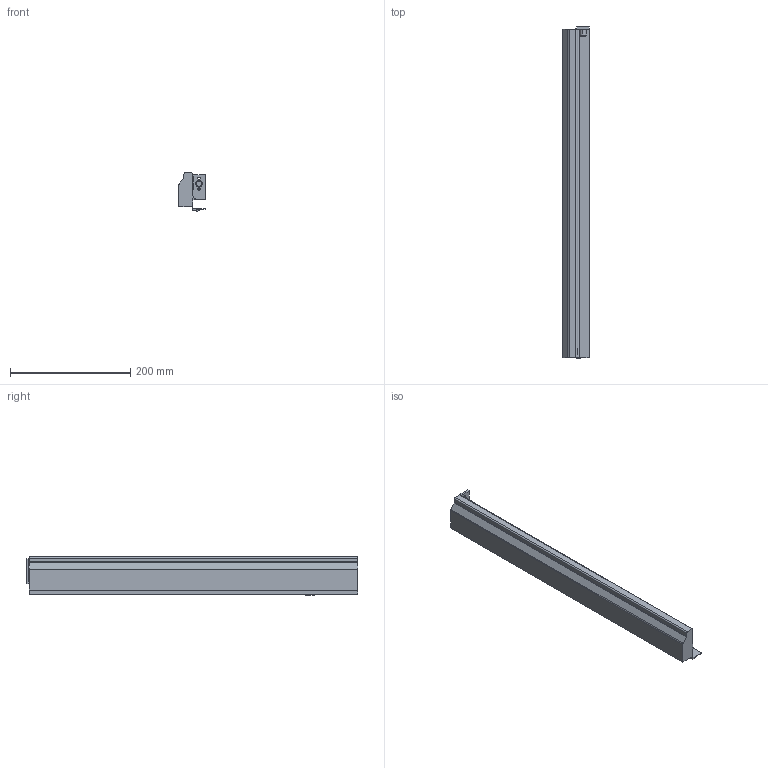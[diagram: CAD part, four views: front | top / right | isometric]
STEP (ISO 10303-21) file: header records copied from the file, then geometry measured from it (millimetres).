
FILE_DESCRIPTION (( 'STEP AP214' ), '1' );
FILE_NAME ('IMOS_NOVA-Pro_Dekor-H63_CL_NL550_LI.step', '2010-09-28T15:26:15', ( 'grass' ), ( '' ), 'SwSTEP 2.0', 'SolidWorks 2010', '' );
FILE_SCHEMA (( 'AUTOMOTIVE_DESIGN' ));
Length unit declared in the file: millimetre
Products named in the file (1): IMOS_NOVA-Pro_Dekor-H63_CL_NL550_LI
Bounding box: 44.3 x 552.7 x 63.49 mm (x, y, z)
Volume: 262486.5 mm3; surface area: 158954 mm2
Topology: 1 solids, 1 shells, 69 faces, 186 edges, 121 vertices
Faces by surface type: plane 41, cylinder 23, cone 4, bspline 1
Entity records: 2206 total; most frequent: CARTESIAN_POINT 390, DIRECTION 375, ORIENTED_EDGE 372, EDGE_CURVE 186, LINE 131, VECTOR 131, AXIS2_PLACEMENT_3D 122, VERTEX_POINT 121
